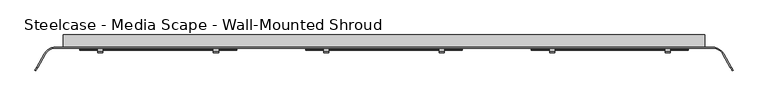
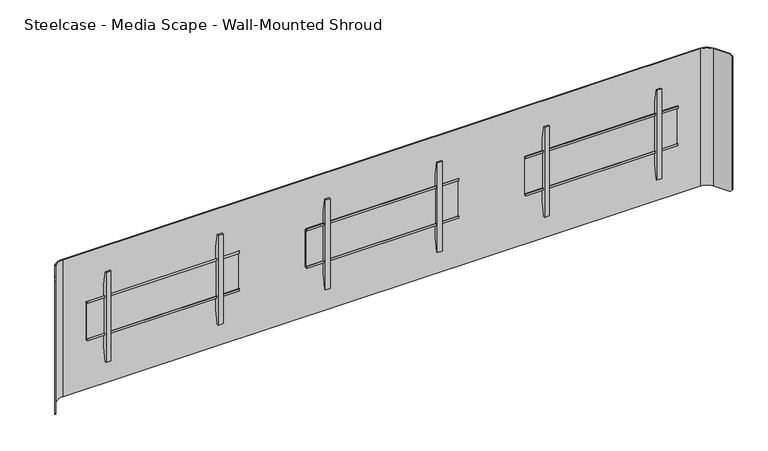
"""IFC4 building model written with IfcOpenShell, lengths in millimetres: furniture geometry, Steelcase - Media Scape - Wall-Mounted Shroud : Triple - 46in with CODEC Case."""

from ifc_helpers import new_model, si_unit, frame, origin, place, context, project, spatial, polyline, circle_curve, outline, extrude, source, transform, mapped, element, save
from ifc_brep_helpers import plane_surface, cylinder_surface, revolved_surface, advanced_brep


def steelcase_media_scape_wall_mounted_shroud_80d280f4(model_context):
    return source(origin(), model_context, "Body", "SolidModel", [
        extrude(outline(polyline([(1534.414, 1664.8747345), (1534.414, -1664.8747345), (912.1648167, -1664.8747345), (912.1648167, 1664.8747345), (1534.414, 1664.8747345)]), holes=[polyline([(1532.9407333, -1663.3506996), (1532.9407333, -1602.8988663), (1470.9139516, -1602.8988663), (1470.9139516, 1601.3113663), (1532.9407333, 1601.3113663), (1532.9407333, 1663.3506996), (913.6887789, 1663.3506996), (913.6887789, 1601.3113663), (935.9772924, 1601.3113663), (935.9772924, -1602.8988663), (913.6887789, -1602.8988663), (913.6887789, -1663.3506996), (1532.9407333, -1663.3506996)])]), frame((0.0, -25.4, 0.0), z_axis=(0.0, 1.0, 0.0), x_axis=(0.0, 0.0, 1.0)), (0.0, 0.0, 1.0), 63.5005882),
        extrude(outline(polyline([(-42.4942785, 1326.5504726), (-42.4942785, 1338.5645649), (-39.8272175, 1338.5645649), (-39.8272175, 1329.217461), (-29.9720009, 1329.217461), (-29.9720009, 1114.8922438), (-42.3164551, 1114.8922438), (-42.3164551, 1125.8142515), (-39.649394, 1125.8142515), (-39.649394, 1117.557052), (-32.6531824, 1117.557052), (-32.6531824, 1326.5504726), (-42.4942785, 1326.5504726)])), frame((765.175, 0.0, 0.0), z_axis=(1.0, 0.0, 0.0), x_axis=(0.0, 1.0, 0.0)), (0.0, 0.0, 1.0), 812.8),
        extrude(outline(polyline([(-32.6531824, 1397.4971148), (-32.6531824, 1045.6825607), (-46.5049349, 968.0546949), (-53.3399828, 968.0546949), (-53.3399828, 1476.0547192), (-46.5050076, 1476.0547192), (-32.6531824, 1397.4971148)])), frame((858.776426, 0.0, 0.0), z_axis=(1.0, 0.0, 0.0), x_axis=(0.0, 1.0, 0.0)), (0.0, 0.0, 1.0), 26.1592872),
        extrude(outline(polyline([(-32.6531824, 1397.4971148), (-32.6531824, 1045.6825607), (-46.5049349, 968.0546949), (-53.3399828, 968.0546949), (-53.3399828, 1476.0547192), (-46.5050076, 1476.0547192), (-32.6531824, 1397.4971148)])), frame((1458.2142868, 0.0, 0.0), z_axis=(1.0, 0.0, 0.0), x_axis=(0.0, 1.0, 0.0)), (0.0, 0.0, 1.0), 26.1592872),
        extrude(outline(polyline([(-42.4942785, 1326.5504726), (-42.4942785, 1338.5645649), (-39.8272175, 1338.5645649), (-39.8272175, 1329.217461), (-29.9720009, 1329.217461), (-29.9720009, 1114.8922438), (-42.3164551, 1114.8922438), (-42.3164551, 1125.8142515), (-39.649394, 1125.8142515), (-39.649394, 1117.557052), (-32.6531824, 1117.557052), (-32.6531824, 1326.5504726), (-42.4942785, 1326.5504726)])), frame((-1577.975, 0.0, 0.0), z_axis=(1.0, 0.0, 0.0), x_axis=(0.0, 1.0, 0.0)), (0.0, 0.0, 1.0), 812.8),
        extrude(outline(polyline([(-32.6531824, 1397.4971148), (-32.6531824, 1045.6825607), (-46.5049349, 968.0546949), (-53.3399828, 968.0546949), (-53.3399828, 1476.0547192), (-46.5050076, 1476.0547192), (-32.6531824, 1397.4971148)])), frame((-884.9357132, 0.0, 0.0), z_axis=(1.0, 0.0, 0.0), x_axis=(0.0, 1.0, 0.0)), (0.0, 0.0, 1.0), 26.1592872),
        extrude(outline(polyline([(-32.6531824, 1397.4971148), (-32.6531824, 1045.6825607), (-46.5049349, 968.0546949), (-53.3399828, 968.0546949), (-53.3399828, 1476.0547192), (-46.5050076, 1476.0547192), (-32.6531824, 1397.4971148)])), frame((-1484.373574, 0.0, 0.0), z_axis=(1.0, 0.0, 0.0), x_axis=(0.0, 1.0, 0.0)), (0.0, 0.0, 1.0), 26.1592872),
        extrude(outline(polyline([(-42.4942785, 1326.5504726), (-42.4942785, 1338.5645649), (-39.8272175, 1338.5645649), (-39.8272175, 1329.217461), (-29.9720009, 1329.217461), (-29.9720009, 1114.8922438), (-42.3164551, 1114.8922438), (-42.3164551, 1125.8142515), (-39.649394, 1125.8142515), (-39.649394, 1117.557052), (-32.6531824, 1117.557052), (-32.6531824, 1326.5504726), (-42.4942785, 1326.5504726)])), frame((-406.4, 0.0, 0.0), z_axis=(1.0, 0.0, 0.0), x_axis=(0.0, 1.0, 0.0)), (0.0, 0.0, 1.0), 812.8),
        extrude(outline(polyline([(-32.6531824, 1397.4971148), (-32.6531824, 1045.6825607), (-46.5049349, 968.0546949), (-53.3399828, 968.0546949), (-53.3399828, 1476.0547192), (-46.5050076, 1476.0547192), (-32.6531824, 1397.4971148)])), frame((286.6392868, 0.0, 0.0), z_axis=(1.0, 0.0, 0.0), x_axis=(0.0, 1.0, 0.0)), (0.0, 0.0, 1.0), 26.1592872),
        extrude(outline(polyline([(-32.6531824, 1397.4971148), (-32.6531824, 1045.6825607), (-46.5049349, 968.0546949), (-53.3399828, 968.0546949), (-53.3399828, 1476.0547192), (-46.5050076, 1476.0547192), (-32.6531824, 1397.4971148)])), frame((-312.798574, 0.0, 0.0), z_axis=(1.0, 0.0, 0.0), x_axis=(0.0, 1.0, 0.0)), (0.0, 0.0, 1.0), 26.1592872),
        advanced_brep(
        [(-1757.8086135, -61.722, 1610.614), (-1702.816002, -29.9720009, 1610.614), (1702.816, -29.9720009, 1610.614), (1757.8086135, -61.722, 1610.614), (1797.929586, -131.2135628, 1610.614), (1801.8890541, -128.9275628, 1610.614), (1761.7680817, -59.436, 1610.614), (1702.816002, -25.4, 1610.614), (-1702.816, -25.4, 1610.614), (-1761.7680817, -59.436, 1610.614), (-1801.8921659, -128.9329524, 1610.614), (-1797.9326977, -131.2189524, 1610.614), (-1761.7680817, -59.436, 835.914), (-1702.816002, -25.4, 835.914), (1702.816, -25.4, 835.914), (1761.7680817, -59.436, 835.914), (1801.9406629, -129.0169518, 835.914), (1797.9811948, -131.3029518, 835.914), (1757.8086135, -61.722, 835.914), (1702.816002, -29.9720009, 835.914), (-1702.816, -29.9720009, 835.914), (-1757.8086135, -61.722, 835.914), (-1797.9954014, -131.3275584, 835.914), (-1801.9548695, -129.0415584, 835.914), (-1811.4590632, -145.5033047, 849.5242766), (-1811.4590632, -145.5033047, 1596.6227735), (-1807.4995951, -147.7893047, 1596.6227735), (-1807.4995951, -147.7893047, 849.5242766), (1807.4770866, -147.7503189, 849.4756893), (1807.4770866, -147.7503189, 1596.7433849), (1811.4365547, -145.4643189, 1596.7433849), (1811.4365547, -145.4643189, 849.4756893)],
        [
            (0, 1, circle_curve(frame((-1702.816002, -93.4719991, 1610.614), z_axis=(0.0, 0.0, -1.0), x_axis=(0.0, 1.0, 0.0)), 63.4999981)),
            (1, 2),
            (2, 3, circle_curve(frame((1702.816002, -93.4719991, 1610.614), z_axis=(0.0, 0.0, -1.0), x_axis=(0.0, 1.0, 0.0)), 63.4999981)),
            (3, 4),
            (4, 5),
            (5, 6),
            (6, 7, circle_curve(frame((1702.8160004, -93.472, 1610.614), z_axis=(0.0, 0.0, 1.0), x_axis=(0.0, 1.0, 0.0)), 68.072)),
            (7, 8),
            (8, 9, circle_curve(frame((-1702.8160004, -93.472, 1610.614), z_axis=(0.0, 0.0, 1.0), x_axis=(0.0, 1.0, 0.0)), 68.072)),
            (9, 10),
            (10, 11),
            (11, 0),
            (12, 13, circle_curve(frame((-1702.8160004, -93.472, 835.914), z_axis=(0.0, 0.0, -1.0), x_axis=(0.0, 1.0, 0.0)), 68.072)),
            (13, 14),
            (14, 15, circle_curve(frame((1702.8160004, -93.472, 835.914), z_axis=(0.0, 0.0, -1.0), x_axis=(0.0, 1.0, 0.0)), 68.072)),
            (15, 16),
            (16, 17),
            (17, 18),
            (18, 19, circle_curve(frame((1702.816002, -93.4719991, 835.914), z_axis=(0.0, 0.0, 1.0), x_axis=(0.0, 1.0, 0.0)), 63.4999981)),
            (19, 20),
            (20, 21, circle_curve(frame((-1702.816002, -93.4719991, 835.914), z_axis=(0.0, 0.0, 1.0), x_axis=(0.0, 1.0, 0.0)), 63.4999981)),
            (21, 22),
            (22, 23),
            (23, 12),
            (0, 21),
            (20, 1),
            (8, 13),
            (12, 9),
            (23, 24, circle_curve(frame((-1801.9548695, -129.0415584, 855.9928872), z_axis=(-0.8660254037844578, 0.49999999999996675, 0.0), x_axis=(-0.49999999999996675, -0.8660254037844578, 0.0)), 20.0788872)),
            (24, 25),
            (25, 10, circle_curve(frame((-1801.8921659, -128.9329524, 1590.5351128), z_axis=(-0.8660254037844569, 0.49999999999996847, 0.0), x_axis=(-0.49999999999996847, -0.8660254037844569, 0.0)), 20.0788872)),
            (26, 25),
            (24, 27),
            (27, 26),
            (11, 26, circle_curve(frame((-1797.9326977, -131.2189524, 1590.5351128), z_axis=(0.8660254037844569, -0.49999999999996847, 0.0), x_axis=(-0.49999999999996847, -0.8660254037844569, 0.0)), 20.0788872)),
            (27, 22, circle_curve(frame((-1797.9954014, -131.3275584, 855.9928872), z_axis=(0.8660254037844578, -0.49999999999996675, 0.0), x_axis=(-0.49999999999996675, -0.8660254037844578, 0.0)), 20.0788872)),
            (7, 14),
            (19, 2),
            (3, 18),
            (17, 28, circle_curve(frame((1797.9811948, -131.3029518, 855.9928872), z_axis=(-0.8660254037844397, -0.49999999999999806, 0.0), x_axis=(0.49999999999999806, -0.8660254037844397, 0.0)), 20.0788872)),
            (28, 29),
            (29, 4, circle_curve(frame((1797.929586, -131.2135628, 1590.5351128), z_axis=(-0.8660254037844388, -0.4999999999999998, 0.0), x_axis=(0.4999999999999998, -0.8660254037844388, 0.0)), 20.0788872)),
            (30, 29),
            (28, 31),
            (31, 30),
            (15, 6),
            (5, 30, circle_curve(frame((1801.8890541, -128.9275628, 1590.5351128), z_axis=(0.8660254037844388, 0.4999999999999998, 0.0), x_axis=(0.4999999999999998, -0.8660254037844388, 0.0)), 20.0788872)),
            (31, 16, circle_curve(frame((1801.9406629, -129.0169518, 855.9928872), z_axis=(0.8660254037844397, 0.49999999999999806, 0.0), x_axis=(0.49999999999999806, -0.8660254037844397, 0.0)), 20.0788872)),
        ],
        [
            plane_surface(frame((-1702.816002, -29.9720009, 1610.614), z_axis=(0.0, 0.0, 1.0), x_axis=(1.0, 0.0, 0.0))),
            plane_surface(frame((-1702.816002, -29.9720009, 835.914), z_axis=(0.0, 0.0, -1.0), x_axis=(-1.0, 0.0, 0.0))),
            revolved_surface(polyline([(-1702.816002, -29.972001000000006, 835.914), (-1702.816002, -29.972001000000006, 1610.614)]), (-1702.816002, -93.4719991, 835.914), (0.0, 0.0, -1.0)),
            cylinder_surface(frame((-1702.8160004, -93.472, 835.914), z_axis=(0.0, 0.0, 1.0), x_axis=(0.0, 1.0, 0.0)), 68.072),
            plane_surface(frame((-1761.7680817, -59.436, 1610.614), z_axis=(-0.866025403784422, 0.5000000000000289, 0.0), x_axis=(0.0, 0.0, -1.0))),
            plane_surface(frame((-1811.4590632, -145.5033047, 1610.614), z_axis=(-0.5000000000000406, -0.8660254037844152, 0.0), x_axis=(0.0, 0.0, -1.0))),
            plane_surface(frame((-1807.4995951, -147.7893047, 1610.614), z_axis=(0.8660254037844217, -0.5000000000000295, 0.0), x_axis=(0.0, 0.0, -1.0))),
            plane_surface(frame((1702.816, -25.4, 1610.614), z_axis=(0.0, 1.0, 0.0), x_axis=(0.0, 0.0, -1.0))),
            plane_surface(frame((-1702.816, -29.9720009, 1610.614), z_axis=(0.0, -1.0, 0.0), x_axis=(0.0, 0.0, -1.0))),
            plane_surface(frame((1757.8086135, -61.722, 1610.614), z_axis=(-0.8660254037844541, -0.4999999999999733, 0.0), x_axis=(0.0, 0.0, -1.0))),
            plane_surface(frame((1807.4770866, -147.7503189, 1610.614), z_axis=(0.4999999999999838, -0.866025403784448, 0.0), x_axis=(0.0, 0.0, -1.0))),
            plane_surface(frame((1811.4365547, -145.4643189, 1610.614), z_axis=(0.8660254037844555, 0.49999999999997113, 0.0), x_axis=(0.0, 0.0, -1.0))),
            cylinder_surface(frame((1702.8160004, -93.472, 835.914), z_axis=(0.0, 0.0, 1.0), x_axis=(0.0, 1.0, 0.0)), 68.072),
            revolved_surface(polyline([(1702.816002, -29.972001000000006, 835.914), (1702.816002, -29.972001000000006, 1610.614)]), (1702.816002, -93.4719991, 835.914), (0.0, 0.0, -1.0)),
            cylinder_surface(frame((-1797.9326977, -131.2189524, 1590.5351128), z_axis=(0.8660254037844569, -0.49999999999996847, 0.0), x_axis=(-0.49999999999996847, -0.8660254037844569, 0.0)), 20.0788872),
            cylinder_surface(frame((-1797.9954014, -131.3275584, 855.9928872), z_axis=(0.8660254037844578, -0.49999999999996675, 0.0), x_axis=(-0.49999999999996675, -0.8660254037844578, 0.0)), 20.0788872),
            cylinder_surface(frame((1813.0364297, -122.4916225, 1590.5351128), z_axis=(0.8660254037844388, 0.4999999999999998, 0.0), x_axis=(0.4999999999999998, -0.8660254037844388, 0.0)), 20.0788872),
            cylinder_surface(frame((1810.2289695, -124.2316958, 855.9928872), z_axis=(0.8660254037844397, 0.49999999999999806, 0.0), x_axis=(0.49999999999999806, -0.8660254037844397, 0.0)), 20.0788872),
        ],
        [
            (0, [[1, 2, 3, 4, 5, 6, 7, 8, 9, 10, 11, 12]]),
            (1, [[13, 14, 15, 16, 17, 18, 19, 20, 21, 22, 23, 24]]),
            (2, [[-1, 25, -21, 26]]),
            (3, [[-9, 27, -13, 28]]),
            (4, [[-28, -24, 29, 30, 31, -10]]),
            (5, [[32, -30, 33, 34]]),
            (6, [[-25, -12, 35, -34, 36, -22]]),
            (7, [[-8, 37, -14, -27]]),
            (8, [[-2, -26, -20, 38]]),
            (9, [[39, -18, 40, 41, 42, -4]]),
            (10, [[43, -41, 44, 45]]),
            (11, [[46, -6, 47, -45, 48, -16]]),
            (12, [[-7, -46, -15, -37]]),
            (13, [[-3, -38, -19, -39]]),
            (14, [[-11, -31, -32, -35]]),
            (15, [[-23, -36, -33, -29]]),
            (16, [[-5, -42, -43, -47]]),
            (17, [[-17, -48, -44, -40]]),
        ],
    ),
    ])


if __name__ == "__main__":
    model = new_model("IFC4")
    model_context = context("Model", 3, world=origin())
    ifc_project = project(units=[si_unit("LENGTHUNIT", "METRE", prefix="MILLI")], contexts=[model_context])
    site = spatial("IfcSite", under=ifc_project)
    building = spatial("IfcBuilding", under=site)
    placement = place(None, origin())
    steelcase_media_scape_wall_mounted_shroud_shape = steelcase_media_scape_wall_mounted_shroud_80d280f4(model_context)
    element("IfcFurniture", 1, ObjectType="Steelcase - Media Scape - Wall-Mounted Shroud : Triple - 46in with CODEC Case", at=placement, inside=building, context=model_context, shape_type="MappedRepresentation", body=[
        mapped(steelcase_media_scape_wall_mounted_shroud_shape, transform((0.0, 0.0, 0.0), x_axis=(1.0, 0.0, 0.0), y_axis=(0.0, 1.0, 0.0), z_axis=(0.0, 0.0, 1.0))),
    ])
    save(model, "model.ifc")
